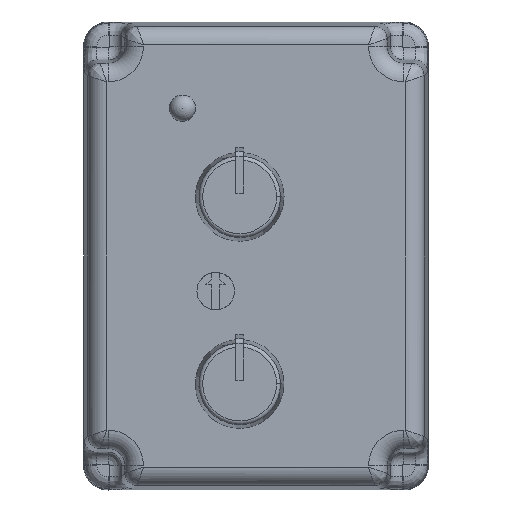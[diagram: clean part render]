
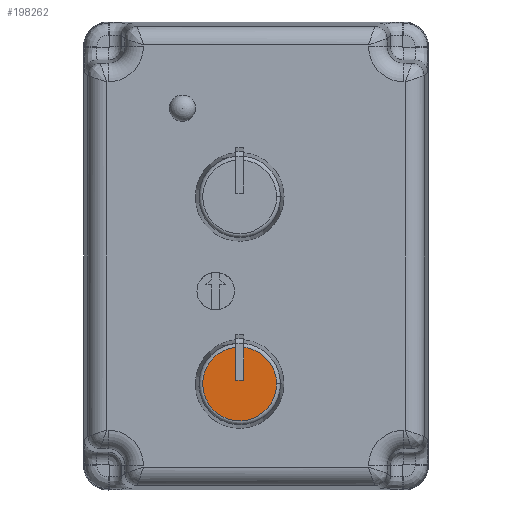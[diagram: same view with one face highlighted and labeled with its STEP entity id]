
A CAD part, front view. The second image highlights one B-rep face of the part: STEP entity #198262.
In plain terms, the highlighted planar face has unit normal (0, -1, 0).
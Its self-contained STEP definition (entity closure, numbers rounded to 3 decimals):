
#197779 = PLANE('',#197780);
#197780 = AXIS2_PLACEMENT_3D('',#197781,#197782,#197783);
#197781 = CARTESIAN_POINT('',(-1.6,36.779,
    -10.144));
#197782 = DIRECTION('',(1.,0.,0.));
#197783 = DIRECTION('',(0.,0.,-1.));
#197804 = VERTEX_POINT('',#197805);
#197805 = CARTESIAN_POINT('',(-1.6,23.063,
    -16.011));
#197819 = PLANE('',#197820);
#197820 = AXIS2_PLACEMENT_3D('',#197821,#197822,#197823);
#197821 = CARTESIAN_POINT('',(-1.6,36.779,
    -16.011));
#197822 = DIRECTION('',(0.,0.,-1.));
#197823 = DIRECTION('',(-1.,0.,0.));
#197831 = EDGE_CURVE('',#197804,#197832,#197834,.T.);
#197832 = VERTEX_POINT('',#197833);
#197833 = CARTESIAN_POINT('',(-1.6,23.063,
    -11.768));
#197834 = SURFACE_CURVE('',#197835,(#197839,#197846),.PCURVE_S1.);
#197835 = LINE('',#197836,#197837);
#197836 = CARTESIAN_POINT('',(-1.6,23.063,
    -13.319));
#197837 = VECTOR('',#197838,1.);
#197838 = DIRECTION('',(0.,0.,1.));
#197839 = PCURVE('',#197779,#197840);
#197840 = DEFINITIONAL_REPRESENTATION('',(#197841),#197845);
#197841 = LINE('',#197842,#197843);
#197842 = CARTESIAN_POINT('',(3.175,-13.716));
#197843 = VECTOR('',#197844,1.);
#197844 = DIRECTION('',(-1.,0.));
#197845 = ( GEOMETRIC_REPRESENTATION_CONTEXT(2) 
PARAMETRIC_REPRESENTATION_CONTEXT() REPRESENTATION_CONTEXT('2D SPACE',''
  ) );
#197846 = PCURVE('',#197847,#197852);
#197847 = PLANE('',#197848);
#197848 = AXIS2_PLACEMENT_3D('',#197849,#197850,#197851);
#197849 = CARTESIAN_POINT('',(-2.108,23.063,
    -16.494));
#197850 = DIRECTION('',(0.,-1.,0.));
#197851 = DIRECTION('',(1.,0.,0.));
#197852 = DEFINITIONAL_REPRESENTATION('',(#197853),#197857);
#197853 = LINE('',#197854,#197855);
#197854 = CARTESIAN_POINT('',(0.508,3.175));
#197855 = VECTOR('',#197856,1.);
#197856 = DIRECTION('',(0.,1.));
#197857 = ( GEOMETRIC_REPRESENTATION_CONTEXT(2) 
PARAMETRIC_REPRESENTATION_CONTEXT() REPRESENTATION_CONTEXT('2D SPACE',''
  ) );
#197897 = TOROIDAL_SURFACE('',#197898,4.753,0.5);
#197898 = AXIS2_PLACEMENT_3D('',#197899,#197900,#197901);
#197899 = CARTESIAN_POINT('',(-2.108,23.563,
    -16.494));
#197900 = DIRECTION('',(0.,-1.,0.));
#197901 = DIRECTION('',(1.,0.,0.));
#198082 = PLANE('',#198083);
#198083 = AXIS2_PLACEMENT_3D('',#198084,#198085,#198086);
#198084 = CARTESIAN_POINT('',(-2.616,36.779,
    -16.011));
#198085 = DIRECTION('',(-1.,0.,0.));
#198086 = DIRECTION('',(0.,0.,1.));
#198168 = EDGE_CURVE('',#198169,#197804,#198171,.T.);
#198169 = VERTEX_POINT('',#198170);
#198170 = CARTESIAN_POINT('',(-2.616,23.063,
    -16.011));
#198171 = SURFACE_CURVE('',#198172,(#198176,#198183),.PCURVE_S1.);
#198172 = LINE('',#198173,#198174);
#198173 = CARTESIAN_POINT('',(-1.854,23.063,
    -16.011));
#198174 = VECTOR('',#198175,1.);
#198175 = DIRECTION('',(1.,0.,0.));
#198176 = PCURVE('',#197819,#198177);
#198177 = DEFINITIONAL_REPRESENTATION('',(#198178),#198182);
#198178 = LINE('',#198179,#198180);
#198179 = CARTESIAN_POINT('',(0.254,-13.716));
#198180 = VECTOR('',#198181,1.);
#198181 = DIRECTION('',(-1.,-0.));
#198182 = ( GEOMETRIC_REPRESENTATION_CONTEXT(2) 
PARAMETRIC_REPRESENTATION_CONTEXT() REPRESENTATION_CONTEXT('2D SPACE',''
  ) );
#198183 = PCURVE('',#197847,#198184);
#198184 = DEFINITIONAL_REPRESENTATION('',(#198185),#198189);
#198185 = LINE('',#198186,#198187);
#198186 = CARTESIAN_POINT('',(0.254,0.483));
#198187 = VECTOR('',#198188,1.);
#198188 = DIRECTION('',(1.,0.));
#198189 = ( GEOMETRIC_REPRESENTATION_CONTEXT(2) 
PARAMETRIC_REPRESENTATION_CONTEXT() REPRESENTATION_CONTEXT('2D SPACE',''
  ) );
#198262 = ADVANCED_FACE('',(#198263),#197847,.T.);
#198263 = FACE_BOUND('',#198264,.T.);
#198264 = EDGE_LOOP('',(#198265,#198288,#198317,#198339,#198340));
#198265 = ORIENTED_EDGE('',*,*,#198266,.F.);
#198266 = EDGE_CURVE('',#198267,#198169,#198269,.T.);
#198267 = VERTEX_POINT('',#198268);
#198268 = CARTESIAN_POINT('',(-2.616,23.063,
    -11.768));
#198269 = SURFACE_CURVE('',#198270,(#198274,#198281),.PCURVE_S1.);
#198270 = LINE('',#198271,#198272);
#198271 = CARTESIAN_POINT('',(-2.616,23.063,
    -16.252));
#198272 = VECTOR('',#198273,1.);
#198273 = DIRECTION('',(0.,0.,-1.));
#198274 = PCURVE('',#197847,#198275);
#198275 = DEFINITIONAL_REPRESENTATION('',(#198276),#198280);
#198276 = LINE('',#198277,#198278);
#198277 = CARTESIAN_POINT('',(-0.508,0.241));
#198278 = VECTOR('',#198279,1.);
#198279 = DIRECTION('',(0.,-1.));
#198280 = ( GEOMETRIC_REPRESENTATION_CONTEXT(2) 
PARAMETRIC_REPRESENTATION_CONTEXT() REPRESENTATION_CONTEXT('2D SPACE',''
  ) );
#198281 = PCURVE('',#198082,#198282);
#198282 = DEFINITIONAL_REPRESENTATION('',(#198283),#198287);
#198283 = LINE('',#198284,#198285);
#198284 = CARTESIAN_POINT('',(-0.241,-13.716));
#198285 = VECTOR('',#198286,1.);
#198286 = DIRECTION('',(-1.,0.));
#198287 = ( GEOMETRIC_REPRESENTATION_CONTEXT(2) 
PARAMETRIC_REPRESENTATION_CONTEXT() REPRESENTATION_CONTEXT('2D SPACE',''
  ) );
#198288 = ORIENTED_EDGE('',*,*,#198289,.T.);
#198289 = EDGE_CURVE('',#198267,#198290,#198292,.T.);
#198290 = VERTEX_POINT('',#198291);
#198291 = CARTESIAN_POINT('',(2.645,23.063,
    -16.494));
#198292 = SURFACE_CURVE('',#198293,(#198298,#198305),.PCURVE_S1.);
#198293 = CIRCLE('',#198294,4.753);
#198294 = AXIS2_PLACEMENT_3D('',#198295,#198296,#198297);
#198295 = CARTESIAN_POINT('',(-2.108,23.063,
    -16.494));
#198296 = DIRECTION('',(0.,-1.,0.));
#198297 = DIRECTION('',(-0.097,0.,
    0.995));
#198298 = PCURVE('',#197847,#198299);
#198299 = DEFINITIONAL_REPRESENTATION('',(#198300),#198304);
#198300 = CIRCLE('',#198301,4.753);
#198301 = AXIS2_PLACEMENT_2D('',#198302,#198303);
#198302 = CARTESIAN_POINT('',(0.,0.));
#198303 = DIRECTION('',(-0.097,0.995));
#198304 = ( GEOMETRIC_REPRESENTATION_CONTEXT(2) 
PARAMETRIC_REPRESENTATION_CONTEXT() REPRESENTATION_CONTEXT('2D SPACE',''
  ) );
#198305 = PCURVE('',#198306,#198311);
#198306 = TOROIDAL_SURFACE('',#198307,4.753,0.5);
#198307 = AXIS2_PLACEMENT_3D('',#198308,#198309,#198310);
#198308 = CARTESIAN_POINT('',(-2.108,23.563,
    -16.494));
#198309 = DIRECTION('',(0.,-1.,0.));
#198310 = DIRECTION('',(-0.097,0.,
    0.995));
#198311 = DEFINITIONAL_REPRESENTATION('',(#198312),#198316);
#198312 = LINE('',#198313,#198314);
#198313 = CARTESIAN_POINT('',(0.,1.571));
#198314 = VECTOR('',#198315,1.);
#198315 = DIRECTION('',(1.,0.));
#198316 = ( GEOMETRIC_REPRESENTATION_CONTEXT(2) 
PARAMETRIC_REPRESENTATION_CONTEXT() REPRESENTATION_CONTEXT('2D SPACE',''
  ) );
#198317 = ORIENTED_EDGE('',*,*,#198318,.T.);
#198318 = EDGE_CURVE('',#198290,#197832,#198319,.T.);
#198319 = SURFACE_CURVE('',#198320,(#198325,#198332),.PCURVE_S1.);
#198320 = CIRCLE('',#198321,4.753);
#198321 = AXIS2_PLACEMENT_3D('',#198322,#198323,#198324);
#198322 = CARTESIAN_POINT('',(-2.108,23.063,
    -16.494));
#198323 = DIRECTION('',(0.,-1.,0.));
#198324 = DIRECTION('',(1.,0.,0.));
#198325 = PCURVE('',#197847,#198326);
#198326 = DEFINITIONAL_REPRESENTATION('',(#198327),#198331);
#198327 = CIRCLE('',#198328,4.753);
#198328 = AXIS2_PLACEMENT_2D('',#198329,#198330);
#198329 = CARTESIAN_POINT('',(0.,0.));
#198330 = DIRECTION('',(1.,0.));
#198331 = ( GEOMETRIC_REPRESENTATION_CONTEXT(2) 
PARAMETRIC_REPRESENTATION_CONTEXT() REPRESENTATION_CONTEXT('2D SPACE',''
  ) );
#198332 = PCURVE('',#197897,#198333);
#198333 = DEFINITIONAL_REPRESENTATION('',(#198334),#198338);
#198334 = LINE('',#198335,#198336);
#198335 = CARTESIAN_POINT('',(0.,1.571));
#198336 = VECTOR('',#198337,1.);
#198337 = DIRECTION('',(1.,0.));
#198338 = ( GEOMETRIC_REPRESENTATION_CONTEXT(2) 
PARAMETRIC_REPRESENTATION_CONTEXT() REPRESENTATION_CONTEXT('2D SPACE',''
  ) );
#198339 = ORIENTED_EDGE('',*,*,#197831,.F.);
#198340 = ORIENTED_EDGE('',*,*,#198168,.F.);
